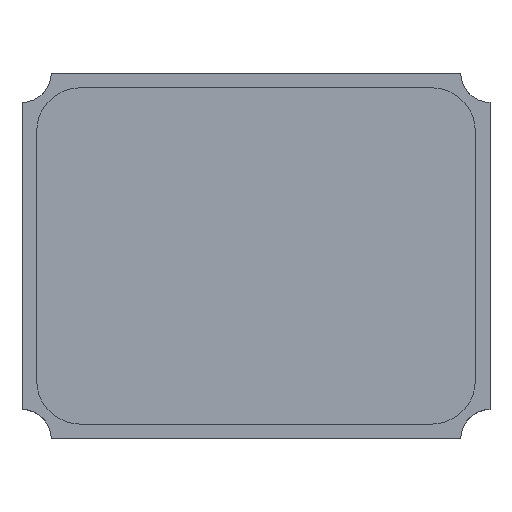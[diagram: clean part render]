
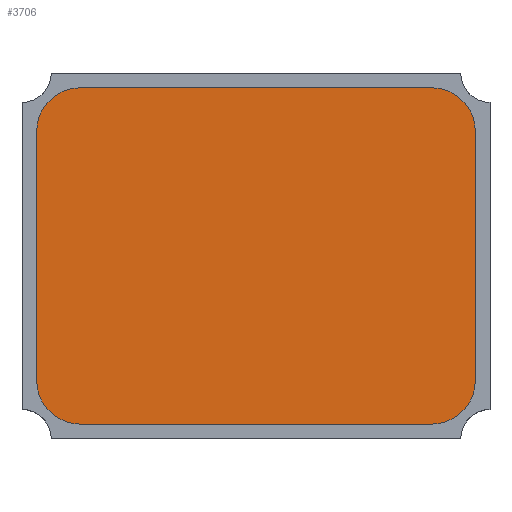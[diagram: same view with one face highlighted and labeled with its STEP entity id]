
A CAD part, top view. The second image highlights one B-rep face of the part: STEP entity #3706.
In plain terms, the highlighted planar face has unit normal (0, 0, 1).
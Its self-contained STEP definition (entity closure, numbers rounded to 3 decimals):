
#2979 = CYLINDRICAL_SURFACE('',#2980,0.3);
#2980 = AXIS2_PLACEMENT_3D('',#2981,#2982,#2983);
#2981 = CARTESIAN_POINT('',(-1.2,-0.85,0.5));
#2982 = DIRECTION('',(-0.,-0.,-1.));
#2983 = DIRECTION('',(1.,0.,0.));
#3007 = PLANE('',#3008);
#3008 = AXIS2_PLACEMENT_3D('',#3009,#3010,#3011);
#3009 = CARTESIAN_POINT('',(-1.5,-0.85,0.5));
#3010 = DIRECTION('',(-1.,0.,0.));
#3011 = DIRECTION('',(0.,1.,0.));
#3036 = CYLINDRICAL_SURFACE('',#3037,0.3);
#3037 = AXIS2_PLACEMENT_3D('',#3038,#3039,#3040);
#3038 = CARTESIAN_POINT('',(-1.2,0.85,0.5));
#3039 = DIRECTION('',(-0.,-0.,-1.));
#3040 = DIRECTION('',(1.,0.,0.));
#3064 = PLANE('',#3065);
#3065 = AXIS2_PLACEMENT_3D('',#3066,#3067,#3068);
#3066 = CARTESIAN_POINT('',(-1.2,1.15,0.5));
#3067 = DIRECTION('',(0.,1.,0.));
#3068 = DIRECTION('',(1.,0.,0.));
#3093 = CYLINDRICAL_SURFACE('',#3094,0.3);
#3094 = AXIS2_PLACEMENT_3D('',#3095,#3096,#3097);
#3095 = CARTESIAN_POINT('',(1.2,0.85,0.5));
#3096 = DIRECTION('',(-0.,-0.,-1.));
#3097 = DIRECTION('',(1.,0.,0.));
#3121 = PLANE('',#3122);
#3122 = AXIS2_PLACEMENT_3D('',#3123,#3124,#3125);
#3123 = CARTESIAN_POINT('',(1.5,0.85,0.5));
#3124 = DIRECTION('',(1.,0.,0.));
#3125 = DIRECTION('',(0.,-1.,0.));
#3150 = CYLINDRICAL_SURFACE('',#3151,0.3);
#3151 = AXIS2_PLACEMENT_3D('',#3152,#3153,#3154);
#3152 = CARTESIAN_POINT('',(1.2,-0.85,0.5));
#3153 = DIRECTION('',(-0.,-0.,-1.));
#3154 = DIRECTION('',(1.,0.,0.));
#3176 = PLANE('',#3177);
#3177 = AXIS2_PLACEMENT_3D('',#3178,#3179,#3180);
#3178 = CARTESIAN_POINT('',(1.2,-1.15,0.5));
#3179 = DIRECTION('',(0.,-1.,0.));
#3180 = DIRECTION('',(-1.,0.,0.));
#3310 = VERTEX_POINT('',#3311);
#3311 = CARTESIAN_POINT('',(-1.5,-0.85,0.55));
#3332 = EDGE_CURVE('',#3310,#3333,#3335,.T.);
#3333 = VERTEX_POINT('',#3334);
#3334 = CARTESIAN_POINT('',(-1.2,-1.15,0.55));
#3335 = SURFACE_CURVE('',#3336,(#3341,#3348),.PCURVE_S1.);
#3336 = CIRCLE('',#3337,0.3);
#3337 = AXIS2_PLACEMENT_3D('',#3338,#3339,#3340);
#3338 = CARTESIAN_POINT('',(-1.2,-0.85,0.55));
#3339 = DIRECTION('',(0.,0.,1.));
#3340 = DIRECTION('',(1.,0.,0.));
#3341 = PCURVE('',#2979,#3342);
#3342 = DEFINITIONAL_REPRESENTATION('',(#3343),#3347);
#3343 = LINE('',#3344,#3345);
#3344 = CARTESIAN_POINT('',(-0.,-0.05));
#3345 = VECTOR('',#3346,1.);
#3346 = DIRECTION('',(-1.,0.));
#3347 = ( GEOMETRIC_REPRESENTATION_CONTEXT(2) 
PARAMETRIC_REPRESENTATION_CONTEXT() REPRESENTATION_CONTEXT('2D SPACE',''
  ) );
#3348 = PCURVE('',#3349,#3354);
#3349 = PLANE('',#3350);
#3350 = AXIS2_PLACEMENT_3D('',#3351,#3352,#3353);
#3351 = CARTESIAN_POINT('',(0.,0.,0.55)
  );
#3352 = DIRECTION('',(0.,0.,1.));
#3353 = DIRECTION('',(1.,0.,0.));
#3354 = DEFINITIONAL_REPRESENTATION('',(#3355),#3359);
#3355 = CIRCLE('',#3356,0.3);
#3356 = AXIS2_PLACEMENT_2D('',#3357,#3358);
#3357 = CARTESIAN_POINT('',(-1.2,-0.85));
#3358 = DIRECTION('',(1.,0.));
#3359 = ( GEOMETRIC_REPRESENTATION_CONTEXT(2) 
PARAMETRIC_REPRESENTATION_CONTEXT() REPRESENTATION_CONTEXT('2D SPACE',''
  ) );
#3387 = VERTEX_POINT('',#3388);
#3388 = CARTESIAN_POINT('',(1.2,-1.15,0.55));
#3409 = EDGE_CURVE('',#3387,#3333,#3410,.T.);
#3410 = SURFACE_CURVE('',#3411,(#3415,#3422),.PCURVE_S1.);
#3411 = LINE('',#3412,#3413);
#3412 = CARTESIAN_POINT('',(1.2,-1.15,0.55));
#3413 = VECTOR('',#3414,1.);
#3414 = DIRECTION('',(-1.,0.,0.));
#3415 = PCURVE('',#3176,#3416);
#3416 = DEFINITIONAL_REPRESENTATION('',(#3417),#3421);
#3417 = LINE('',#3418,#3419);
#3418 = CARTESIAN_POINT('',(0.,-0.05));
#3419 = VECTOR('',#3420,1.);
#3420 = DIRECTION('',(1.,0.));
#3421 = ( GEOMETRIC_REPRESENTATION_CONTEXT(2) 
PARAMETRIC_REPRESENTATION_CONTEXT() REPRESENTATION_CONTEXT('2D SPACE',''
  ) );
#3422 = PCURVE('',#3349,#3423);
#3423 = DEFINITIONAL_REPRESENTATION('',(#3424),#3428);
#3424 = LINE('',#3425,#3426);
#3425 = CARTESIAN_POINT('',(1.2,-1.15));
#3426 = VECTOR('',#3427,1.);
#3427 = DIRECTION('',(-1.,0.));
#3428 = ( GEOMETRIC_REPRESENTATION_CONTEXT(2) 
PARAMETRIC_REPRESENTATION_CONTEXT() REPRESENTATION_CONTEXT('2D SPACE',''
  ) );
#3436 = EDGE_CURVE('',#3387,#3437,#3439,.T.);
#3437 = VERTEX_POINT('',#3438);
#3438 = CARTESIAN_POINT('',(1.5,-0.85,0.55));
#3439 = SURFACE_CURVE('',#3440,(#3445,#3452),.PCURVE_S1.);
#3440 = CIRCLE('',#3441,0.3);
#3441 = AXIS2_PLACEMENT_3D('',#3442,#3443,#3444);
#3442 = CARTESIAN_POINT('',(1.2,-0.85,0.55));
#3443 = DIRECTION('',(0.,0.,1.));
#3444 = DIRECTION('',(1.,0.,0.));
#3445 = PCURVE('',#3150,#3446);
#3446 = DEFINITIONAL_REPRESENTATION('',(#3447),#3451);
#3447 = LINE('',#3448,#3449);
#3448 = CARTESIAN_POINT('',(-0.,-0.05));
#3449 = VECTOR('',#3450,1.);
#3450 = DIRECTION('',(-1.,0.));
#3451 = ( GEOMETRIC_REPRESENTATION_CONTEXT(2) 
PARAMETRIC_REPRESENTATION_CONTEXT() REPRESENTATION_CONTEXT('2D SPACE',''
  ) );
#3452 = PCURVE('',#3349,#3453);
#3453 = DEFINITIONAL_REPRESENTATION('',(#3454),#3458);
#3454 = CIRCLE('',#3455,0.3);
#3455 = AXIS2_PLACEMENT_2D('',#3456,#3457);
#3456 = CARTESIAN_POINT('',(1.2,-0.85));
#3457 = DIRECTION('',(1.,0.));
#3458 = ( GEOMETRIC_REPRESENTATION_CONTEXT(2) 
PARAMETRIC_REPRESENTATION_CONTEXT() REPRESENTATION_CONTEXT('2D SPACE',''
  ) );
#3486 = VERTEX_POINT('',#3487);
#3487 = CARTESIAN_POINT('',(1.5,0.85,0.55));
#3508 = EDGE_CURVE('',#3486,#3437,#3509,.T.);
#3509 = SURFACE_CURVE('',#3510,(#3514,#3521),.PCURVE_S1.);
#3510 = LINE('',#3511,#3512);
#3511 = CARTESIAN_POINT('',(1.5,0.85,0.55));
#3512 = VECTOR('',#3513,1.);
#3513 = DIRECTION('',(0.,-1.,0.));
#3514 = PCURVE('',#3121,#3515);
#3515 = DEFINITIONAL_REPRESENTATION('',(#3516),#3520);
#3516 = LINE('',#3517,#3518);
#3517 = CARTESIAN_POINT('',(0.,-0.05));
#3518 = VECTOR('',#3519,1.);
#3519 = DIRECTION('',(1.,0.));
#3520 = ( GEOMETRIC_REPRESENTATION_CONTEXT(2) 
PARAMETRIC_REPRESENTATION_CONTEXT() REPRESENTATION_CONTEXT('2D SPACE',''
  ) );
#3521 = PCURVE('',#3349,#3522);
#3522 = DEFINITIONAL_REPRESENTATION('',(#3523),#3527);
#3523 = LINE('',#3524,#3525);
#3524 = CARTESIAN_POINT('',(1.5,0.85));
#3525 = VECTOR('',#3526,1.);
#3526 = DIRECTION('',(0.,-1.));
#3527 = ( GEOMETRIC_REPRESENTATION_CONTEXT(2) 
PARAMETRIC_REPRESENTATION_CONTEXT() REPRESENTATION_CONTEXT('2D SPACE',''
  ) );
#3535 = EDGE_CURVE('',#3486,#3536,#3538,.T.);
#3536 = VERTEX_POINT('',#3537);
#3537 = CARTESIAN_POINT('',(1.2,1.15,0.55));
#3538 = SURFACE_CURVE('',#3539,(#3544,#3551),.PCURVE_S1.);
#3539 = CIRCLE('',#3540,0.3);
#3540 = AXIS2_PLACEMENT_3D('',#3541,#3542,#3543);
#3541 = CARTESIAN_POINT('',(1.2,0.85,0.55));
#3542 = DIRECTION('',(0.,0.,1.));
#3543 = DIRECTION('',(1.,0.,0.));
#3544 = PCURVE('',#3093,#3545);
#3545 = DEFINITIONAL_REPRESENTATION('',(#3546),#3550);
#3546 = LINE('',#3547,#3548);
#3547 = CARTESIAN_POINT('',(-0.,-0.05));
#3548 = VECTOR('',#3549,1.);
#3549 = DIRECTION('',(-1.,0.));
#3550 = ( GEOMETRIC_REPRESENTATION_CONTEXT(2) 
PARAMETRIC_REPRESENTATION_CONTEXT() REPRESENTATION_CONTEXT('2D SPACE',''
  ) );
#3551 = PCURVE('',#3349,#3552);
#3552 = DEFINITIONAL_REPRESENTATION('',(#3553),#3557);
#3553 = CIRCLE('',#3554,0.3);
#3554 = AXIS2_PLACEMENT_2D('',#3555,#3556);
#3555 = CARTESIAN_POINT('',(1.2,0.85));
#3556 = DIRECTION('',(1.,0.));
#3557 = ( GEOMETRIC_REPRESENTATION_CONTEXT(2) 
PARAMETRIC_REPRESENTATION_CONTEXT() REPRESENTATION_CONTEXT('2D SPACE',''
  ) );
#3585 = VERTEX_POINT('',#3586);
#3586 = CARTESIAN_POINT('',(-1.2,1.15,0.55));
#3607 = EDGE_CURVE('',#3585,#3536,#3608,.T.);
#3608 = SURFACE_CURVE('',#3609,(#3613,#3620),.PCURVE_S1.);
#3609 = LINE('',#3610,#3611);
#3610 = CARTESIAN_POINT('',(-1.2,1.15,0.55));
#3611 = VECTOR('',#3612,1.);
#3612 = DIRECTION('',(1.,0.,0.));
#3613 = PCURVE('',#3064,#3614);
#3614 = DEFINITIONAL_REPRESENTATION('',(#3615),#3619);
#3615 = LINE('',#3616,#3617);
#3616 = CARTESIAN_POINT('',(0.,-0.05));
#3617 = VECTOR('',#3618,1.);
#3618 = DIRECTION('',(1.,0.));
#3619 = ( GEOMETRIC_REPRESENTATION_CONTEXT(2) 
PARAMETRIC_REPRESENTATION_CONTEXT() REPRESENTATION_CONTEXT('2D SPACE',''
  ) );
#3620 = PCURVE('',#3349,#3621);
#3621 = DEFINITIONAL_REPRESENTATION('',(#3622),#3626);
#3622 = LINE('',#3623,#3624);
#3623 = CARTESIAN_POINT('',(-1.2,1.15));
#3624 = VECTOR('',#3625,1.);
#3625 = DIRECTION('',(1.,0.));
#3626 = ( GEOMETRIC_REPRESENTATION_CONTEXT(2) 
PARAMETRIC_REPRESENTATION_CONTEXT() REPRESENTATION_CONTEXT('2D SPACE',''
  ) );
#3634 = EDGE_CURVE('',#3585,#3635,#3637,.T.);
#3635 = VERTEX_POINT('',#3636);
#3636 = CARTESIAN_POINT('',(-1.5,0.85,0.55));
#3637 = SURFACE_CURVE('',#3638,(#3643,#3650),.PCURVE_S1.);
#3638 = CIRCLE('',#3639,0.3);
#3639 = AXIS2_PLACEMENT_3D('',#3640,#3641,#3642);
#3640 = CARTESIAN_POINT('',(-1.2,0.85,0.55));
#3641 = DIRECTION('',(0.,0.,1.));
#3642 = DIRECTION('',(1.,0.,0.));
#3643 = PCURVE('',#3036,#3644);
#3644 = DEFINITIONAL_REPRESENTATION('',(#3645),#3649);
#3645 = LINE('',#3646,#3647);
#3646 = CARTESIAN_POINT('',(-0.,-0.05));
#3647 = VECTOR('',#3648,1.);
#3648 = DIRECTION('',(-1.,0.));
#3649 = ( GEOMETRIC_REPRESENTATION_CONTEXT(2) 
PARAMETRIC_REPRESENTATION_CONTEXT() REPRESENTATION_CONTEXT('2D SPACE',''
  ) );
#3650 = PCURVE('',#3349,#3651);
#3651 = DEFINITIONAL_REPRESENTATION('',(#3652),#3656);
#3652 = CIRCLE('',#3653,0.3);
#3653 = AXIS2_PLACEMENT_2D('',#3654,#3655);
#3654 = CARTESIAN_POINT('',(-1.2,0.85));
#3655 = DIRECTION('',(1.,0.));
#3656 = ( GEOMETRIC_REPRESENTATION_CONTEXT(2) 
PARAMETRIC_REPRESENTATION_CONTEXT() REPRESENTATION_CONTEXT('2D SPACE',''
  ) );
#3684 = EDGE_CURVE('',#3310,#3635,#3685,.T.);
#3685 = SURFACE_CURVE('',#3686,(#3690,#3697),.PCURVE_S1.);
#3686 = LINE('',#3687,#3688);
#3687 = CARTESIAN_POINT('',(-1.5,-0.85,0.55));
#3688 = VECTOR('',#3689,1.);
#3689 = DIRECTION('',(0.,1.,0.));
#3690 = PCURVE('',#3007,#3691);
#3691 = DEFINITIONAL_REPRESENTATION('',(#3692),#3696);
#3692 = LINE('',#3693,#3694);
#3693 = CARTESIAN_POINT('',(0.,-0.05));
#3694 = VECTOR('',#3695,1.);
#3695 = DIRECTION('',(1.,0.));
#3696 = ( GEOMETRIC_REPRESENTATION_CONTEXT(2) 
PARAMETRIC_REPRESENTATION_CONTEXT() REPRESENTATION_CONTEXT('2D SPACE',''
  ) );
#3697 = PCURVE('',#3349,#3698);
#3698 = DEFINITIONAL_REPRESENTATION('',(#3699),#3703);
#3699 = LINE('',#3700,#3701);
#3700 = CARTESIAN_POINT('',(-1.5,-0.85));
#3701 = VECTOR('',#3702,1.);
#3702 = DIRECTION('',(0.,1.));
#3703 = ( GEOMETRIC_REPRESENTATION_CONTEXT(2) 
PARAMETRIC_REPRESENTATION_CONTEXT() REPRESENTATION_CONTEXT('2D SPACE',''
  ) );
#3706 = ADVANCED_FACE('',(#3707),#3349,.T.);
#3707 = FACE_BOUND('',#3708,.F.);
#3708 = EDGE_LOOP('',(#3709,#3710,#3711,#3712,#3713,#3714,#3715,#3716));
#3709 = ORIENTED_EDGE('',*,*,#3684,.T.);
#3710 = ORIENTED_EDGE('',*,*,#3634,.F.);
#3711 = ORIENTED_EDGE('',*,*,#3607,.T.);
#3712 = ORIENTED_EDGE('',*,*,#3535,.F.);
#3713 = ORIENTED_EDGE('',*,*,#3508,.T.);
#3714 = ORIENTED_EDGE('',*,*,#3436,.F.);
#3715 = ORIENTED_EDGE('',*,*,#3409,.T.);
#3716 = ORIENTED_EDGE('',*,*,#3332,.F.);
